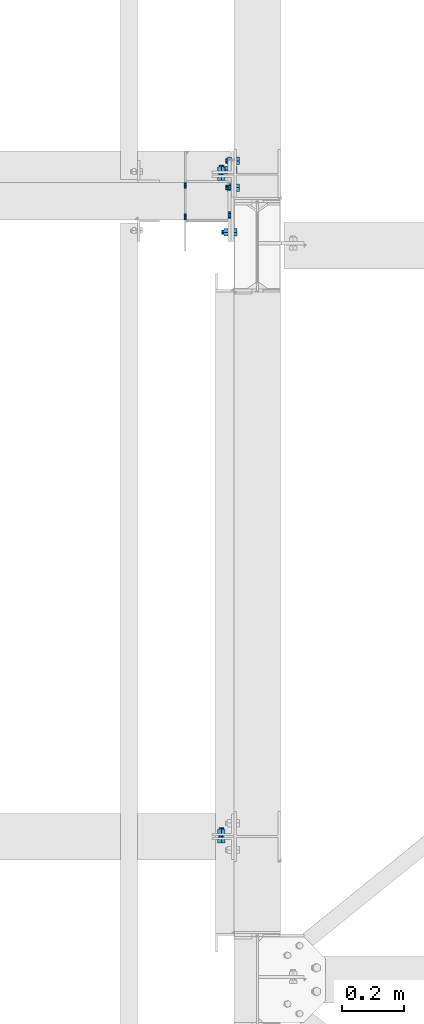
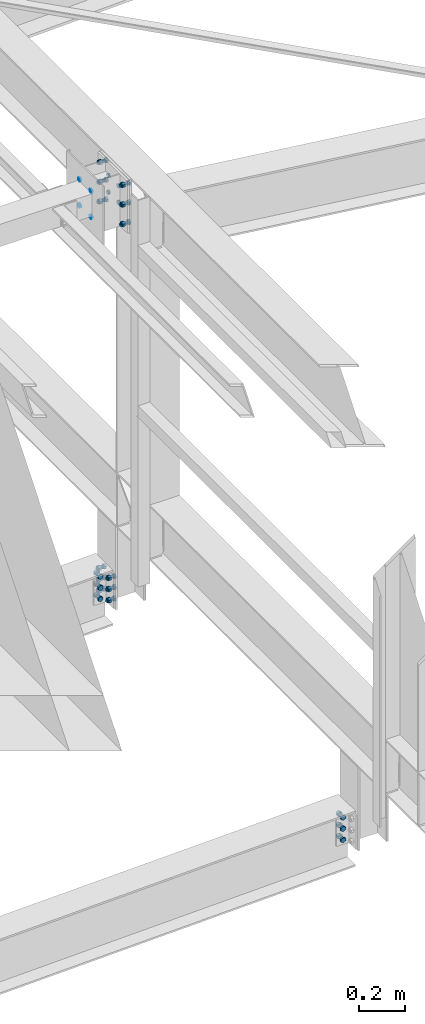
# One storey, part 90 of 3134: 7 mechanical fasteners, 5 elements without a shape of their own.
"""IFC2X3 building model written with IfcOpenShell, lengths in millimetres."""

from ifc_helpers import new_model, si_unit, frame, origin_with_axes, place, context, subcontext, project, spatial, faceted_brep, source, transform, mapped, material, type_object, element, aggregate, save


model = new_model("IFC2X3")

# Units and contexts
model_context = context("Model", 3, precision=1e-05, world=origin_with_axes())
body_context = subcontext(model_context, "Body", "Model", "MODEL_VIEW")
ifc_project = project(units=[si_unit("LENGTHUNIT", "METRE", prefix="MILLI"), si_unit("AREAUNIT", "SQUARE_METRE"), si_unit("VOLUMEUNIT", "CUBIC_METRE"), si_unit("MASSUNIT", "GRAM", prefix="KILO"), si_unit("TIMEUNIT", "SECOND"), si_unit("PLANEANGLEUNIT", "RADIAN"), si_unit("SOLIDANGLEUNIT", "STERADIAN"), si_unit("THERMODYNAMICTEMPERATUREUNIT", "DEGREE_CELSIUS"), si_unit("LUMINOUSINTENSITYUNIT", "LUMEN")], contexts=[model_context])

# Site, building, storey
site_placement = place(None, origin_with_axes())
site = spatial("IfcSite", under=ifc_project, at=site_placement, CompositionType="ELEMENT")
building_placement = place(site_placement, origin_with_axes())
building = spatial("IfcBuilding", under=site, at=building_placement, Name="Undefined", CompositionType="ELEMENT")
storey_placement = place(building_placement, origin_with_axes())
storey = spatial("IfcBuildingStorey", under=building, at=storey_placement, Name="Undefined", CompositionType="ELEMENT", Elevation=0.0)

# Assembly, mechanical fasteners
assembly_1_placement = place(storey_placement, origin_with_axes())
assembly_1 = element("IfcElementAssembly", 1, at=assembly_1_placement, inside=storey, AssemblyPlace="NOTDEFINED", PredefinedType="RIGID_FRAME")
ifc_material = material(Name="8.8")
mechanical_fastener_type = type_object("IfcMechanicalFastenerType", Name="Bolt assembly")
shared_shape_1 = source(origin_with_axes(), body_context, "Body", "Brep", [
    faceted_brep([(9.0, -3.46568413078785e-07, 0.0), (7.79422863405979, -3.46568413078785e-07, 4.50000000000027), (4.49999999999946, -3.46568413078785e-07, 7.79422863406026), (-9.3270238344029e-13, -3.46568413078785e-07, 9.0), (-4.50000000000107, -3.46568413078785e-07, 7.79422863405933), (-7.79422863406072, -3.46568413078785e-07, 4.49999999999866), (-9.0, -3.46568413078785e-07, -1.86540476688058e-12), (-7.79422863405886, -3.46568413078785e-07, -4.50000000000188), (-4.49999999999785, -3.46568413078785e-07, -7.79422863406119), (2.78811514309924e-12, -3.46568413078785e-07, -9.0), (4.50000000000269, -3.46568413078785e-07, -7.7942286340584), (7.79422863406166, -3.46568413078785e-07, -4.49999999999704), (7.79422863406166, 6.1, -4.49999999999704), (4.50000000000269, 6.1, -7.7942286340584), (2.78811514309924e-12, 6.1, -9.0), (-4.49999999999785, 6.1, -7.79422863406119), (-7.79422863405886, 6.1, -4.50000000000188), (-9.0, 6.1, -1.86540476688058e-12), (-7.79422863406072, 6.1, 4.49999999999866), (-4.50000000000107, 6.1, 7.79422863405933), (-9.3270238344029e-13, 6.1, 9.0), (4.49999999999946, 6.1, 7.79422863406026), (7.79422863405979, 6.1, 4.50000000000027), (9.0, 6.1, 0.0)], [[[0, 1, 2, 3, 4, 5, 6, 7, 8, 9, 10, 11]], [[12, 13, 14, 15, 16, 17, 18, 19, 20, 21, 22, 23]], [[0, 23, 22, 1]], [[1, 22, 21, 2]], [[2, 21, 20, 3]], [[3, 20, 19, 4]], [[4, 19, 18, 5]], [[5, 18, 17, 6]], [[6, 17, 16, 7]], [[7, 16, 15, 8]], [[8, 15, 14, 9]], [[9, 14, 13, 10]], [[10, 13, 12, 11]], [[11, 12, 23, 0]]]),
])
mechanical_fastener_1_placement = place(assembly_1_placement, frame((20615.0, 17283.5019072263, 5760.0), z_axis=(0.0, 0.0, 1.0), x_axis=(0.0, -1.0, 0.0)))
mechanical_fastener_1 = element("IfcMechanicalFastener", 2, at=mechanical_fastener_1_placement, type_object=mechanical_fastener_type, material=ifc_material, Name="Bolt assembly", NominalDiameter=16.0, NominalLength=6.0, context=body_context, shape_type="MappedRepresentation", body=[
    mapped(shared_shape_1, transform((0.0, 0.0, -70.0))),
    mapped(shared_shape_1, transform((100.0, 0.0, -70.0))),
    mapped(shared_shape_1, transform((0.0, 0.0, 70.0))),
    mapped(shared_shape_1, transform((100.0, 0.0, 70.0))),
])
shared_shape_2 = source(origin_with_axes(), body_context, "Body", "Brep", [
    faceted_brep([(11.0, 0.0, 0.0), (9.52627944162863, 0.0, 5.50000000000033), (5.49999999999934, 0.0, 9.5262794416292), (-1.13996957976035e-12, 0.0, 11.0), (-5.50000000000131, 0.0, 9.52627944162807), (-9.52627944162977, 0.0, 5.49999999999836), (-11.0, 0.0, -2.27993915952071e-12), (-9.5262794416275, 0.0, -5.5000000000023), (-5.49999999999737, 0.0, -9.52627944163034), (3.40769628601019e-12, 0.0, -11.0), (5.50000000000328, 0.0, -9.52627944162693), (9.52627944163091, 0.0, -5.49999999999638), (9.52627944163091, 10.1, -5.49999999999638), (5.50000000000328, 10.1, -9.52627944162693), (3.40769628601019e-12, 10.1, -11.0), (-5.49999999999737, 10.1, -9.52627944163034), (-9.5262794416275, 10.1, -5.5000000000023), (-11.0, 10.1, -2.27993915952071e-12), (-9.52627944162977, 10.1, 5.49999999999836), (-5.50000000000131, 10.1, 9.52627944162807), (-1.13996957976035e-12, 10.1, 11.0), (5.49999999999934, 10.1, 9.5262794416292), (9.52627944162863, 10.1, 5.50000000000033), (11.0, 10.1, 0.0)], [[[0, 1, 2, 3, 4, 5, 6, 7, 8, 9, 10, 11]], [[12, 13, 14, 15, 16, 17, 18, 19, 20, 21, 22, 23]], [[0, 23, 22, 1]], [[1, 22, 21, 2]], [[2, 21, 20, 3]], [[3, 20, 19, 4]], [[4, 19, 18, 5]], [[5, 18, 17, 6]], [[6, 17, 16, 7]], [[7, 16, 15, 8]], [[8, 15, 14, 9]], [[9, 14, 13, 10]], [[10, 13, 12, 11]], [[11, 12, 23, 0]]]),
])
mechanical_fastener_2_placement = place(assembly_1_placement, frame((20755.0, 17278.5019072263, 5760.0), z_axis=(0.0, 0.0, 1.0), x_axis=(0.0, -1.0, 0.0)))
mechanical_fastener_2 = element("IfcMechanicalFastener", 3, at=mechanical_fastener_2_placement, type_object=mechanical_fastener_type, material=ifc_material, Name="Bolt assembly", NominalDiameter=20.0, NominalLength=10.0, context=body_context, shape_type="MappedRepresentation", body=[
    mapped(shared_shape_2, transform((0.0, 0.0, -45.0))),
    mapped(shared_shape_2, transform((90.0, 0.0, -45.0))),
    mapped(shared_shape_2, transform((0.0, 0.0, 45.0))),
    mapped(shared_shape_2, transform((90.0, 0.0, 45.0))),
])
aggregate(assembly_1, [mechanical_fastener_2, mechanical_fastener_1])

# Assembly, mechanical fastener
assembly_2_placement = place(storey_placement, origin_with_axes())
assembly_2 = element("IfcElementAssembly", 4, at=assembly_2_placement, inside=storey, Name="300", AssemblyPlace="NOTDEFINED", PredefinedType="RIGID_FRAME")
shared_shape_3 = source(origin_with_axes(), body_context, "Body", "Brep", [
    faceted_brep([(13.856406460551, -30.0, 0.0), (6.92820323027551, -30.0, 12.0), (-6.92820323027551, -30.0, 12.0), (-13.856406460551, -30.0, 1.69692038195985e-15), (-6.92820323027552, -30.0, -12.0), (6.9282032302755, -30.0, -12.0), (6.9282032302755, -20.0, -12.0), (-6.92820323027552, -20.0, -12.0), (-13.856406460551, -20.0, 1.69692038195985e-15), (-6.92820323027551, -20.0, 12.0), (6.92820323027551, -20.0, 12.0), (13.856406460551, -20.0, 0.0), (8.0, -20.0, 0.0), (6.92820323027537, -20.0, 4.00000000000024), (3.99999999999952, -20.0, 6.92820323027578), (-8.29068785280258e-13, -20.0, 8.0), (-4.00000000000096, -20.0, 6.92820323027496), (-6.9282032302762, -20.0, 3.99999999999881), (-8.0, -20.0, -1.65813757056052e-12), (-6.92820323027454, -20.0, -4.00000000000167), (-3.99999999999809, -20.0, -6.92820323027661), (2.47832457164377e-12, -20.0, -8.0), (4.00000000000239, -20.0, -6.92820323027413), (6.92820323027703, -20.0, -3.99999999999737), (6.92820323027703, 20.0, -3.99999999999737), (4.00000000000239, 20.0, -6.92820323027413), (2.47832457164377e-12, 20.0, -8.0), (-3.99999999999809, 20.0, -6.92820323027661), (-6.92820323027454, 20.0, -4.00000000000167), (-8.0, 20.0, -1.65813757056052e-12), (-6.9282032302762, 20.0, 3.99999999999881), (-4.00000000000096, 20.0, 6.92820323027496), (-8.29068785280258e-13, 20.0, 8.0), (3.99999999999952, 20.0, 6.92820323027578), (6.92820323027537, 20.0, 4.00000000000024), (8.0, 20.0, 0.0), (13.856406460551, 0.0, 0.0), (6.92820323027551, 0.0, 12.0), (-6.92820323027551, 0.0, 12.0), (-13.856406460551, 0.0, 1.69692038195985e-15), (-6.92820323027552, 0.0, -12.0), (6.9282032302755, 0.0, -12.0), (6.9282032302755, 12.9999996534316, -12.0), (-6.92820323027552, 12.9999996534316, -12.0), (-13.856406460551, 12.9999996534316, 1.69692038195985e-15), (-6.92820323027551, 12.9999996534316, 12.0), (6.92820323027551, 12.9999996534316, 12.0), (13.856406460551, 12.9999996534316, 0.0)], [[[0, 1, 2, 3, 4, 5]], [[6, 7, 8, 9, 10, 11]], [[0, 11, 10, 1]], [[1, 10, 9, 2]], [[2, 9, 8, 3]], [[3, 8, 7, 4]], [[4, 7, 6, 5]], [[5, 6, 11, 0]], [[12, 13, 14, 15, 16, 17, 18, 19, 20, 21, 22, 23]], [[24, 25, 26, 27, 28, 29, 30, 31, 32, 33, 34, 35]], [[12, 35, 34, 13]], [[13, 34, 33, 14]], [[14, 33, 32, 15]], [[15, 32, 31, 16]], [[16, 31, 30, 17]], [[17, 30, 29, 18]], [[18, 29, 28, 19]], [[19, 28, 27, 20]], [[20, 27, 26, 21]], [[21, 26, 25, 22]], [[22, 25, 24, 23]], [[23, 24, 35, 12]], [[36, 37, 38, 39, 40, 41]], [[42, 43, 44, 45, 46, 47]], [[36, 47, 46, 37]], [[37, 46, 45, 38]], [[38, 45, 44, 39]], [[39, 44, 43, 40]], [[40, 43, 42, 41]], [[41, 42, 47, 36]]]),
    faceted_brep([(9.0, -10.1000003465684, 0.0), (7.79422863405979, -10.1000003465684, 4.50000000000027), (4.49999999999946, -10.1000003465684, 7.79422863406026), (-9.3270238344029e-13, -10.1000003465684, 9.0), (-4.50000000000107, -10.1000003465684, 7.79422863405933), (-7.79422863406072, -10.1000003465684, 4.49999999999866), (-9.0, -10.1000003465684, -1.86540476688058e-12), (-7.79422863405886, -10.1000003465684, -4.50000000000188), (-4.49999999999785, -10.1000003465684, -7.79422863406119), (2.78811514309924e-12, -10.1000003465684, -9.0), (4.50000000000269, -10.1000003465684, -7.7942286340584), (7.79422863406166, -10.1000003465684, -4.49999999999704), (7.79422863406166, -3.46568413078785e-07, -4.49999999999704), (4.50000000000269, -3.46568413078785e-07, -7.7942286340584), (2.78811514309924e-12, -3.46568413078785e-07, -9.0), (-4.49999999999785, -3.46568413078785e-07, -7.79422863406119), (-7.79422863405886, -3.46568413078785e-07, -4.50000000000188), (-9.0, -3.46568413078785e-07, -1.86540476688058e-12), (-7.79422863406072, -3.46568413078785e-07, 4.49999999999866), (-4.50000000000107, -3.46568413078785e-07, 7.79422863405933), (-9.3270238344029e-13, -3.46568413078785e-07, 9.0), (4.49999999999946, -3.46568413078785e-07, 7.79422863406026), (7.79422863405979, -3.46568413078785e-07, 4.50000000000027), (9.0, -3.46568413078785e-07, 0.0), (9.0, -19.9, 0.0), (7.79422863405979, -19.9, 4.50000000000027), (4.49999999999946, -19.9, 7.79422863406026), (-9.3270238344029e-13, -19.9, 9.0), (-4.50000000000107, -19.9, 7.79422863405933), (-7.79422863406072, -19.9, 4.49999999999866), (-9.0, -19.9, -1.86540476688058e-12), (-7.79422863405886, -19.9, -4.50000000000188), (-4.49999999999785, -19.9, -7.79422863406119), (2.78811514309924e-12, -19.9, -9.0), (4.50000000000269, -19.9, -7.7942286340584), (7.79422863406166, -19.9, -4.49999999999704), (7.79422863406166, -9.89999997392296, -4.49999999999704), (4.50000000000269, -9.89999997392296, -7.7942286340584), (2.78811514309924e-12, -9.89999997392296, -9.0), (-4.49999999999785, -9.89999997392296, -7.79422863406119), (-7.79422863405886, -9.89999997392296, -4.50000000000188), (-9.0, -9.89999997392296, -1.86540476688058e-12), (-7.79422863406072, -9.89999997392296, 4.49999999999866), (-4.50000000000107, -9.89999997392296, 7.79422863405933), (-9.3270238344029e-13, -9.89999997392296, 9.0), (4.49999999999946, -9.89999997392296, 7.79422863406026), (7.79422863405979, -9.89999997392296, 4.50000000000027), (9.0, -9.89999997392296, 0.0)], [[[0, 1, 2, 3, 4, 5, 6, 7, 8, 9, 10, 11]], [[12, 13, 14, 15, 16, 17, 18, 19, 20, 21, 22, 23]], [[0, 23, 22, 1]], [[1, 22, 21, 2]], [[2, 21, 20, 3]], [[3, 20, 19, 4]], [[4, 19, 18, 5]], [[5, 18, 17, 6]], [[6, 17, 16, 7]], [[7, 16, 15, 8]], [[8, 15, 14, 9]], [[9, 14, 13, 10]], [[10, 13, 12, 11]], [[11, 12, 23, 0]], [[24, 25, 26, 27, 28, 29, 30, 31, 32, 33, 34, 35]], [[36, 37, 38, 39, 40, 41, 42, 43, 44, 45, 46, 47]], [[24, 47, 46, 25]], [[25, 46, 45, 26]], [[26, 45, 44, 27]], [[27, 44, 43, 28]], [[28, 43, 42, 29]], [[29, 42, 41, 30]], [[30, 41, 40, 31]], [[31, 40, 39, 32]], [[32, 39, 38, 33]], [[33, 38, 37, 34]], [[34, 37, 36, 35]], [[35, 36, 47, 24]]]),
])
mechanical_fastener_3_placement = place(assembly_2_placement, frame((20755.0, 17233.5019072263, 5846.5), z_axis=(0.0, 1.0, 0.0), x_axis=(0.0, 0.0, -1.0)))
mechanical_fastener_3 = element("IfcMechanicalFastener", 5, at=mechanical_fastener_3_placement, type_object=mechanical_fastener_type, material=ifc_material, Name="Bolt assembly", NominalDiameter=16.0, NominalLength=40.0, context=body_context, shape_type="MappedRepresentation", body=[
    mapped(shared_shape_3, transform((0.0, 0.0, -100.0))),
    mapped(shared_shape_3, transform((105.0, 0.0, -100.0))),
    mapped(shared_shape_3, transform((210.0, 0.0, -100.0))),
    mapped(shared_shape_3, transform((0.0, 0.0, 100.0))),
    mapped(shared_shape_3, transform((105.0, 0.0, 100.0))),
    mapped(shared_shape_3, transform((210.0, 0.0, 100.0))),
])
aggregate(assembly_2, [mechanical_fastener_3])

assembly_3_placement = place(storey_placement, origin_with_axes())
assembly_3 = element("IfcElementAssembly", 6, at=assembly_3_placement, inside=storey, AssemblyPlace="NOTDEFINED", PredefinedType="RIGID_FRAME")
shared_shape_4 = source(origin_with_axes(), body_context, "Body", "Brep", [
    faceted_brep([(13.856406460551, -20.0400000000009, 0.0), (6.92820323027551, -20.0400000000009, 12.0), (-6.92820323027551, -20.0400000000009, 12.0), (-13.856406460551, -20.0400000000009, 1.69692038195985e-15), (-6.92820323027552, -20.0400000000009, -12.0), (6.9282032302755, -20.0400000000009, -12.0), (6.9282032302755, -10.0400000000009, -12.0), (-6.92820323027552, -10.0400000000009, -12.0), (-13.856406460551, -10.0400000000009, 1.69692038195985e-15), (-6.92820323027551, -10.0400000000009, 12.0), (6.92820323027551, -10.0400000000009, 12.0), (13.856406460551, -10.0400000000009, 0.0), (8.0, -10.0400000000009, 0.0), (6.92820323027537, -10.0400000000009, 4.00000000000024), (3.99999999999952, -10.0400000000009, 6.92820323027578), (-8.29068785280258e-13, -10.0400000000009, 8.0), (-4.00000000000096, -10.0400000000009, 6.92820323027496), (-6.9282032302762, -10.0400000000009, 3.99999999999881), (-8.0, -10.0400000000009, -1.65813757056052e-12), (-6.92820323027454, -10.0400000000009, -4.00000000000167), (-3.99999999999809, -10.0400000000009, -6.92820323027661), (2.47832457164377e-12, -10.0400000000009, -8.0), (4.00000000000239, -10.0400000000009, -6.92820323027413), (6.92820323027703, -10.0400000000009, -3.99999999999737), (6.92820323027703, 29.9599999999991, -3.99999999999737), (4.00000000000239, 29.9599999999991, -6.92820323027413), (2.47832457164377e-12, 29.9599999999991, -8.0), (-3.99999999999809, 29.9599999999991, -6.92820323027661), (-6.92820323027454, 29.9599999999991, -4.00000000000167), (-8.0, 29.9599999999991, -1.65813757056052e-12), (-6.9282032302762, 29.9599999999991, 3.99999999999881), (-4.00000000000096, 29.9599999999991, 6.92820323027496), (-8.29068785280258e-13, 29.9599999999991, 8.0), (3.99999999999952, 29.9599999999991, 6.92820323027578), (6.92820323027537, 29.9599999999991, 4.00000000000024), (8.0, 29.9599999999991, 0.0), (13.856406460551, 10.0400000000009, 0.0), (6.92820323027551, 10.0400000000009, 12.0), (-6.92820323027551, 10.0400000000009, 12.0), (-13.856406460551, 10.0400000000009, 1.69692038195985e-15), (-6.92820323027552, 10.0400000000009, -12.0), (6.9282032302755, 10.0400000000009, -12.0), (6.9282032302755, 23.0400000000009, -12.0), (-6.92820323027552, 23.0400000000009, -12.0), (-13.856406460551, 23.0400000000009, 1.69692038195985e-15), (-6.92820323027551, 23.0400000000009, 12.0), (6.92820323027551, 23.0400000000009, 12.0), (13.856406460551, 23.0400000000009, 0.0)], [[[0, 1, 2, 3, 4, 5]], [[6, 7, 8, 9, 10, 11]], [[0, 11, 10, 1]], [[1, 10, 9, 2]], [[2, 9, 8, 3]], [[3, 8, 7, 4]], [[4, 7, 6, 5]], [[5, 6, 11, 0]], [[12, 13, 14, 15, 16, 17, 18, 19, 20, 21, 22, 23]], [[24, 25, 26, 27, 28, 29, 30, 31, 32, 33, 34, 35]], [[12, 35, 34, 13]], [[13, 34, 33, 14]], [[14, 33, 32, 15]], [[15, 32, 31, 16]], [[16, 31, 30, 17]], [[17, 30, 29, 18]], [[18, 29, 28, 19]], [[19, 28, 27, 20]], [[20, 27, 26, 21]], [[21, 26, 25, 22]], [[22, 25, 24, 23]], [[23, 24, 35, 12]], [[36, 37, 38, 39, 40, 41]], [[42, 43, 44, 45, 46, 47]], [[36, 47, 46, 37]], [[37, 46, 45, 38]], [[38, 45, 44, 39]], [[39, 44, 43, 40]], [[40, 43, 42, 41]], [[41, 42, 47, 36]]]),
    faceted_brep([(9.0, -3.04999995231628, 0.0), (7.79422863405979, -3.04999995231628, 4.50000000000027), (4.49999999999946, -3.04999995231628, 7.79422863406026), (-9.3270238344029e-13, -3.04999995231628, 9.0), (-4.50000000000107, -3.04999995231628, 7.79422863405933), (-7.79422863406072, -3.04999995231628, 4.49999999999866), (-9.0, -3.04999995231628, -1.86540476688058e-12), (-7.79422863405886, -3.04999995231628, -4.50000000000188), (-4.49999999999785, -3.04999995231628, -7.79422863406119), (2.78811514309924e-12, -3.04999995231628, -9.0), (4.50000000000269, -3.04999995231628, -7.7942286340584), (7.79422863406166, -3.04999995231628, -4.49999999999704), (7.79422863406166, 3.04999995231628, -4.49999999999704), (4.50000000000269, 3.04999995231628, -7.7942286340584), (2.78811514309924e-12, 3.04999995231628, -9.0), (-4.49999999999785, 3.04999995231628, -7.79422863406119), (-7.79422863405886, 3.04999995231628, -4.50000000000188), (-9.0, 3.04999995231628, -1.86540476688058e-12), (-7.79422863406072, 3.04999995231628, 4.49999999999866), (-4.50000000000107, 3.04999995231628, 7.79422863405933), (-9.3270238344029e-13, 3.04999995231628, 9.0), (4.49999999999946, 3.04999995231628, 7.79422863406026), (7.79422863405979, 3.04999995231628, 4.50000000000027), (9.0, 3.04999995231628, 0.0), (9.0, -9.94000000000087, 0.0), (7.79422863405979, -9.94000000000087, 4.50000000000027), (4.49999999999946, -9.94000000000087, 7.79422863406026), (-9.3270238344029e-13, -9.94000000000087, 9.0), (-4.50000000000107, -9.94000000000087, 7.79422863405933), (-7.79422863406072, -9.94000000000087, 4.49999999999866), (-9.0, -9.94000000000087, -1.86540476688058e-12), (-7.79422863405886, -9.94000000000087, -4.50000000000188), (-4.49999999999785, -9.94000000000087, -7.79422863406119), (2.78811514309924e-12, -9.94000000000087, -9.0), (4.50000000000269, -9.94000000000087, -7.7942286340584), (7.79422863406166, -9.94000000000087, -4.49999999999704), (7.79422863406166, -2.94000000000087, -4.49999999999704), (4.50000000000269, -2.94000000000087, -7.7942286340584), (2.78811514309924e-12, -2.94000000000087, -9.0), (-4.49999999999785, -2.94000000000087, -7.79422863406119), (-7.79422863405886, -2.94000000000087, -4.50000000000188), (-9.0, -2.94000000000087, -1.86540476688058e-12), (-7.79422863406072, -2.94000000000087, 4.49999999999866), (-4.50000000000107, -2.94000000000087, 7.79422863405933), (-9.3270238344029e-13, -2.94000000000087, 9.0), (4.49999999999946, -2.94000000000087, 7.79422863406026), (7.79422863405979, -2.94000000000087, 4.50000000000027), (9.0, -2.94000000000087, 0.0), (9.0, 2.94000000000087, 0.0), (7.79422863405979, 2.94000000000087, 4.50000000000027), (4.49999999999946, 2.94000000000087, 7.79422863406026), (-9.3270238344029e-13, 2.94000000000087, 9.0), (-4.50000000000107, 2.94000000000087, 7.79422863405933), (-7.79422863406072, 2.94000000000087, 4.49999999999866), (-9.0, 2.94000000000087, -1.86540476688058e-12), (-7.79422863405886, 2.94000000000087, -4.50000000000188), (-4.49999999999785, 2.94000000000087, -7.79422863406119), (2.78811514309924e-12, 2.94000000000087, -9.0), (4.50000000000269, 2.94000000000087, -7.7942286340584), (7.79422863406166, 2.94000000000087, -4.49999999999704), (7.79422863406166, 10.0400000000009, -4.49999999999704), (4.50000000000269, 10.0400000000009, -7.7942286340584), (2.78811514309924e-12, 10.0400000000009, -9.0), (-4.49999999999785, 10.0400000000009, -7.79422863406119), (-7.79422863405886, 10.0400000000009, -4.50000000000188), (-9.0, 10.0400000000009, -1.86540476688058e-12), (-7.79422863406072, 10.0400000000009, 4.49999999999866), (-4.50000000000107, 10.0400000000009, 7.79422863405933), (-9.3270238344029e-13, 10.0400000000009, 9.0), (4.49999999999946, 10.0400000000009, 7.79422863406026), (7.79422863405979, 10.0400000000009, 4.50000000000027), (9.0, 10.0400000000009, 0.0)], [[[0, 1, 2, 3, 4, 5, 6, 7, 8, 9, 10, 11]], [[12, 13, 14, 15, 16, 17, 18, 19, 20, 21, 22, 23]], [[0, 23, 22, 1]], [[1, 22, 21, 2]], [[2, 21, 20, 3]], [[3, 20, 19, 4]], [[4, 19, 18, 5]], [[5, 18, 17, 6]], [[6, 17, 16, 7]], [[7, 16, 15, 8]], [[8, 15, 14, 9]], [[9, 14, 13, 10]], [[10, 13, 12, 11]], [[11, 12, 23, 0]], [[24, 25, 26, 27, 28, 29, 30, 31, 32, 33, 34, 35]], [[36, 37, 38, 39, 40, 41, 42, 43, 44, 45, 46, 47]], [[24, 47, 46, 25]], [[25, 46, 45, 26]], [[26, 45, 44, 27]], [[27, 44, 43, 28]], [[28, 43, 42, 29]], [[29, 42, 41, 30]], [[30, 41, 40, 31]], [[31, 40, 39, 32]], [[32, 39, 38, 33]], [[33, 38, 37, 34]], [[34, 37, 36, 35]], [[35, 36, 47, 24]], [[48, 49, 50, 51, 52, 53, 54, 55, 56, 57, 58, 59]], [[60, 61, 62, 63, 64, 65, 66, 67, 68, 69, 70, 71]], [[48, 71, 70, 49]], [[49, 70, 69, 50]], [[50, 69, 68, 51]], [[51, 68, 67, 52]], [[52, 67, 66, 53]], [[53, 66, 65, 54]], [[54, 65, 64, 55]], [[55, 64, 63, 56]], [[56, 63, 62, 57]], [[57, 62, 61, 58]], [[58, 61, 60, 59]], [[59, 60, 71, 48]]]),
])
mechanical_fastener_4_placement = place(assembly_3_placement, frame((20734.0000000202, 15190.0, 3648.83272487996), z_axis=(1.0, 0.0, 0.0), x_axis=(0.0, 0.0, -1.0)))
mechanical_fastener_4 = element("IfcMechanicalFastener", 7, at=mechanical_fastener_4_placement, type_object=mechanical_fastener_type, material=ifc_material, Name="Bolt assembly", NominalDiameter=16.0, NominalLength=40.0, context=body_context, shape_type="MappedRepresentation", body=[
    mapped(shared_shape_4, transform((0.0, 0.0, 0.0))),
    mapped(shared_shape_4, transform((59.9999999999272, 0.0, 5.40239852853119e-10))),
    mapped(shared_shape_4, transform((120.0, 0.0, 0.0))),
])
aggregate(assembly_3, [mechanical_fastener_4])

# Assembly, mechanical fasteners
assembly_4_placement = place(storey_placement, origin_with_axes())
assembly_4 = element("IfcElementAssembly", 8, at=assembly_4_placement, inside=storey, AssemblyPlace="NOTDEFINED", PredefinedType="RIGID_FRAME")
mechanical_fastener_5_placement = place(assembly_4_placement, frame((20734.0000000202, 17320.0, 3648.83272487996), z_axis=(1.0, 0.0, 0.0), x_axis=(0.0, 0.0, -1.0)))
mechanical_fastener_5 = element("IfcMechanicalFastener", 9, at=mechanical_fastener_5_placement, type_object=mechanical_fastener_type, material=ifc_material, Name="Bolt assembly", NominalDiameter=16.0, NominalLength=40.0, context=body_context, shape_type="MappedRepresentation", body=[
    mapped(shared_shape_4, transform((0.0, 0.0, 0.0))),
    mapped(shared_shape_4, transform((59.9999999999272, 0.0, 5.40239852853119e-10))),
    mapped(shared_shape_4, transform((120.0, 0.0, 0.0))),
])
shared_shape_5 = source(origin_with_axes(), body_context, "Body", "Brep", [
    faceted_brep([(13.856406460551, -19.0, 0.0), (6.92820323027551, -19.0, 12.0), (-6.92820323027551, -19.0, 12.0), (-13.856406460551, -19.0, 1.69692038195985e-15), (-6.92820323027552, -19.0, -12.0), (6.9282032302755, -19.0, -12.0), (6.9282032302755, -9.0, -12.0), (-6.92820323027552, -9.0, -12.0), (-13.856406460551, -9.0, 1.69692038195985e-15), (-6.92820323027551, -9.0, 12.0), (6.92820323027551, -9.0, 12.0), (13.856406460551, -9.0, 0.0), (8.0, -9.0, 0.0), (6.92820323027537, -9.0, 4.00000000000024), (3.99999999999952, -9.0, 6.92820323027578), (-8.29068785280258e-13, -9.0, 8.0), (-4.00000000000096, -9.0, 6.92820323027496), (-6.9282032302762, -9.0, 3.99999999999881), (-8.0, -9.0, -1.65813757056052e-12), (-6.92820323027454, -9.0, -4.00000000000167), (-3.99999999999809, -9.0, -6.92820323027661), (2.47832457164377e-12, -9.0, -8.0), (4.00000000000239, -9.0, -6.92820323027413), (6.92820323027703, -9.0, -3.99999999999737), (6.92820323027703, 26.0, -3.99999999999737), (4.00000000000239, 26.0, -6.92820323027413), (2.47832457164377e-12, 26.0, -8.0), (-3.99999999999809, 26.0, -6.92820323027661), (-6.92820323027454, 26.0, -4.00000000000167), (-8.0, 26.0, -1.65813757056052e-12), (-6.9282032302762, 26.0, 3.99999999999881), (-4.00000000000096, 26.0, 6.92820323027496), (-8.29068785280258e-13, 26.0, 8.0), (3.99999999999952, 26.0, 6.92820323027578), (6.92820323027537, 26.0, 4.00000000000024), (8.0, 26.0, 0.0), (13.856406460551, 7.0, 0.0), (6.92820323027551, 7.0, 12.0), (-6.92820323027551, 7.0, 12.0), (-13.856406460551, 7.0, 1.69692038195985e-15), (-6.92820323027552, 7.0, -12.0), (6.9282032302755, 7.0, -12.0), (6.9282032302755, 20.0, -12.0), (-6.92820323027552, 20.0, -12.0), (-13.856406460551, 20.0, 1.69692038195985e-15), (-6.92820323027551, 20.0, 12.0), (6.92820323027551, 20.0, 12.0), (13.856406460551, 20.0, 0.0)], [[[0, 1, 2, 3, 4, 5]], [[6, 7, 8, 9, 10, 11]], [[0, 11, 10, 1]], [[1, 10, 9, 2]], [[2, 9, 8, 3]], [[3, 8, 7, 4]], [[4, 7, 6, 5]], [[5, 6, 11, 0]], [[12, 13, 14, 15, 16, 17, 18, 19, 20, 21, 22, 23]], [[24, 25, 26, 27, 28, 29, 30, 31, 32, 33, 34, 35]], [[12, 35, 34, 13]], [[13, 34, 33, 14]], [[14, 33, 32, 15]], [[15, 32, 31, 16]], [[16, 31, 30, 17]], [[17, 30, 29, 18]], [[18, 29, 28, 19]], [[19, 28, 27, 20]], [[20, 27, 26, 21]], [[21, 26, 25, 22]], [[22, 25, 24, 23]], [[23, 24, 35, 12]], [[36, 37, 38, 39, 40, 41]], [[42, 43, 44, 45, 46, 47]], [[36, 47, 46, 37]], [[37, 46, 45, 38]], [[38, 45, 44, 39]], [[39, 44, 43, 40]], [[40, 43, 42, 41]], [[41, 42, 47, 36]]]),
    faceted_brep([(9.0, -8.9, 0.0), (7.79422863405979, -8.9, 4.50000000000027), (4.49999999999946, -8.9, 7.79422863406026), (-9.3270238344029e-13, -8.9, 9.0), (-4.50000000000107, -8.9, 7.79422863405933), (-7.79422863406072, -8.9, 4.49999999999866), (-9.0, -8.9, -1.86540476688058e-12), (-7.79422863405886, -8.9, -4.50000000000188), (-4.49999999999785, -8.9, -7.79422863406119), (2.78811514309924e-12, -8.9, -9.0), (4.50000000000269, -8.9, -7.7942286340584), (7.79422863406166, -8.9, -4.49999999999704), (7.79422863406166, 0.100000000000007, -4.49999999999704), (4.50000000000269, 0.100000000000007, -7.7942286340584), (2.78811514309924e-12, 0.100000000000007, -9.0), (-4.49999999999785, 0.100000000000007, -7.79422863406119), (-7.79422863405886, 0.100000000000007, -4.50000000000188), (-9.0, 0.100000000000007, -1.86540476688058e-12), (-7.79422863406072, 0.100000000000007, 4.49999999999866), (-4.50000000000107, 0.100000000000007, 7.79422863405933), (-9.3270238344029e-13, 0.100000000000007, 9.0), (4.49999999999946, 0.100000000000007, 7.79422863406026), (7.79422863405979, 0.100000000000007, 4.50000000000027), (9.0, 0.100000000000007, 0.0), (9.0, -0.1, 0.0), (7.79422863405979, -0.1, 4.50000000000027), (4.49999999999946, -0.1, 7.79422863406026), (-9.3270238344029e-13, -0.1, 9.0), (-4.50000000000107, -0.1, 7.79422863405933), (-7.79422863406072, -0.1, 4.49999999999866), (-9.0, -0.1, -1.86540476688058e-12), (-7.79422863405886, -0.1, -4.50000000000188), (-4.49999999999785, -0.1, -7.79422863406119), (2.78811514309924e-12, -0.1, -9.0), (4.50000000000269, -0.1, -7.7942286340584), (7.79422863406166, -0.1, -4.49999999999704), (7.79422863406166, 7.0, -4.49999999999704), (4.50000000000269, 7.0, -7.7942286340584), (2.78811514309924e-12, 7.0, -9.0), (-4.49999999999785, 7.0, -7.79422863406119), (-7.79422863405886, 7.0, -4.50000000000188), (-9.0, 7.0, -1.86540476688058e-12), (-7.79422863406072, 7.0, 4.49999999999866), (-4.50000000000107, 7.0, 7.79422863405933), (-9.3270238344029e-13, 7.0, 9.0), (4.49999999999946, 7.0, 7.79422863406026), (7.79422863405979, 7.0, 4.50000000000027), (9.0, 7.0, 0.0)], [[[0, 1, 2, 3, 4, 5, 6, 7, 8, 9, 10, 11]], [[12, 13, 14, 15, 16, 17, 18, 19, 20, 21, 22, 23]], [[0, 23, 22, 1]], [[1, 22, 21, 2]], [[2, 21, 20, 3]], [[3, 20, 19, 4]], [[4, 19, 18, 5]], [[5, 18, 17, 6]], [[6, 17, 16, 7]], [[7, 16, 15, 8]], [[8, 15, 14, 9]], [[9, 14, 13, 10]], [[10, 13, 12, 11]], [[11, 12, 23, 0]], [[24, 25, 26, 27, 28, 29, 30, 31, 32, 33, 34, 35]], [[36, 37, 38, 39, 40, 41, 42, 43, 44, 45, 46, 47]], [[24, 47, 46, 25]], [[25, 46, 45, 26]], [[26, 45, 44, 27]], [[27, 44, 43, 28]], [[28, 43, 42, 29]], [[29, 42, 41, 30]], [[30, 41, 40, 31]], [[31, 40, 39, 32]], [[32, 39, 38, 33]], [[33, 38, 37, 34]], [[34, 37, 36, 35]], [[35, 36, 47, 24]]]),
])
mechanical_fastener_6_placement = place(assembly_4_placement, frame((20774.0000000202, 17276.96, 3648.83272487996), z_axis=(0.0, 1.0, 0.0), x_axis=(0.0, 0.0, -1.0)))
mechanical_fastener_6 = element("IfcMechanicalFastener", 10, at=mechanical_fastener_6_placement, type_object=mechanical_fastener_type, material=ifc_material, Name="Bolt assembly", NominalDiameter=16.0, NominalLength=35.0, context=body_context, shape_type="MappedRepresentation", body=[
    mapped(shared_shape_5, transform((0.0, 0.0, 0.0))),
    mapped(shared_shape_5, transform((59.9999999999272, 0.0, 5.40239852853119e-10))),
    mapped(shared_shape_5, transform((120.0, 0.0, 0.0))),
])
aggregate(assembly_4, [mechanical_fastener_6, mechanical_fastener_5])

# Assembly, mechanical fastener
assembly_5_placement = place(storey_placement, origin_with_axes())
assembly_5 = element("IfcElementAssembly", 11, at=assembly_5_placement, inside=storey, AssemblyPlace="NOTDEFINED", PredefinedType="RIGID_FRAME")
mechanical_fastener_7_placement = place(assembly_5_placement, frame((20774.0000000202, 17363.04, 3648.83272487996), z_axis=(0.0, 1.0, 0.0), x_axis=(0.0, 0.0, -1.0)))
mechanical_fastener_7 = element("IfcMechanicalFastener", 12, at=mechanical_fastener_7_placement, type_object=mechanical_fastener_type, material=ifc_material, Name="Bolt assembly", NominalDiameter=16.0, NominalLength=35.0, context=body_context, shape_type="MappedRepresentation", body=[
    mapped(shared_shape_5, transform((0.0, 0.0, 0.0))),
    mapped(shared_shape_5, transform((59.9999999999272, 0.0, 5.40239852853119e-10))),
    mapped(shared_shape_5, transform((120.0, 0.0, 0.0))),
])
aggregate(assembly_5, [mechanical_fastener_7])

save(model, "model.ifc")
